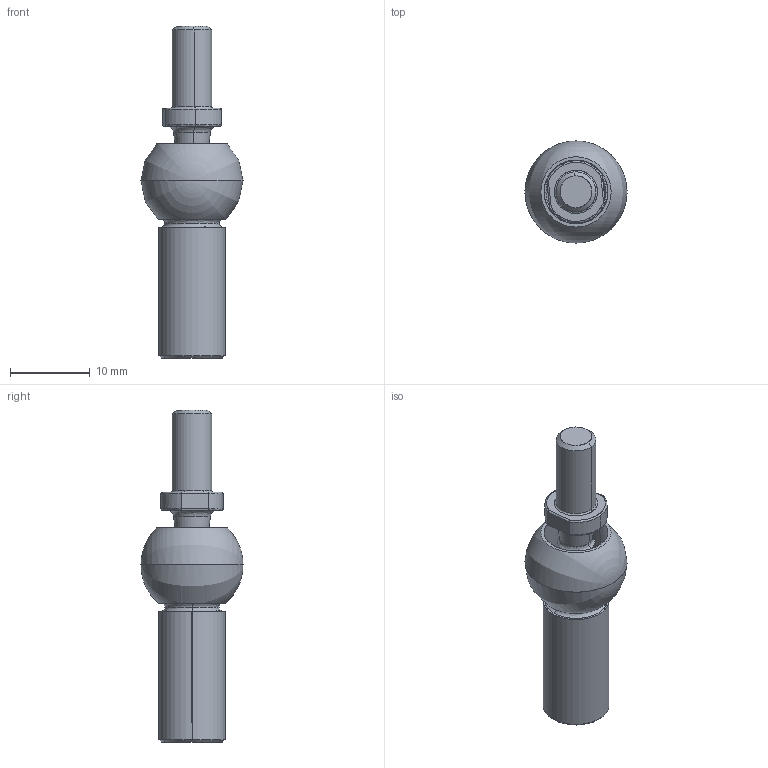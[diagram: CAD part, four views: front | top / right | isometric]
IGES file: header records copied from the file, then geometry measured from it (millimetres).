
Start section: SolidWorks IGES file using analytic representation for surfaces
Global section: file name: \\srv4gefran\dir-cat\Disegni Catalogo\Posizione\WPG\WPG-A-0100\3D\Creo\SND011x.IGS; native system: SolidWorks 2019; preprocessor: SolidWorks 2019; author: Loda-w1; date: 181217.141508; units: millimetre
Bounding box: 12.79 x 12.8 x 41.63 mm (x, y, z)
Surface area: 1811.7 mm2 (no closed solid volume)
Topology: 0 solids, 0 shells, 61 faces, 866 edges, 862 vertices
Faces by surface type: bspline 31, revolution 30
